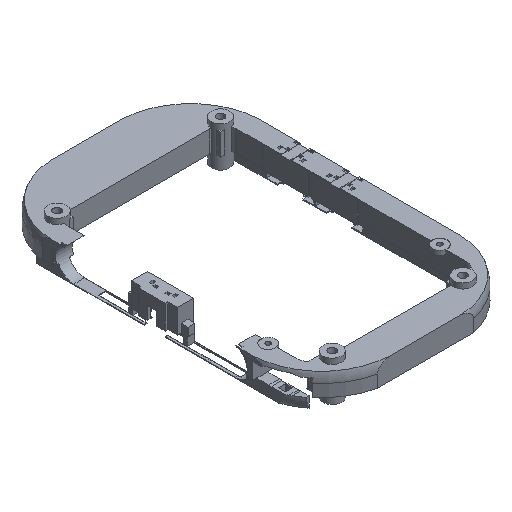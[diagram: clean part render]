
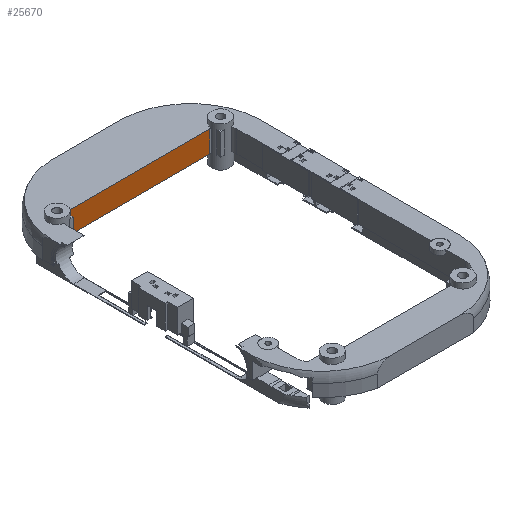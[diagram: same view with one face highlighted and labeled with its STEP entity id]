
A CAD part, isometric view. The second image highlights one B-rep face of the part: STEP entity #25670.
In plain terms, the highlighted planar face has unit normal (0, -1, 0).
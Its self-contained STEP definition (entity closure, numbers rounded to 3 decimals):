
#19020 = PLANE('',#19021);
#19021 = AXIS2_PLACEMENT_3D('',#19022,#19023,#19024);
#19022 = CARTESIAN_POINT('',(-38.2,-62.2,12.));
#19023 = DIRECTION('',(0.,0.,1.));
#19024 = DIRECTION('',(1.,0.,-0.));
#19078 = PLANE('',#19079);
#19079 = AXIS2_PLACEMENT_3D('',#19080,#19081,#19082);
#19080 = CARTESIAN_POINT('',(-38.2,-62.2,20.));
#19081 = DIRECTION('',(0.,0.,1.));
#19082 = DIRECTION('',(1.,0.,-0.));
#22992 = VERTEX_POINT('',#22993);
#22993 = CARTESIAN_POINT('',(-26.,43.,12.));
#23008 = CYLINDRICAL_SURFACE('',#23009,5.);
#23009 = AXIS2_PLACEMENT_3D('',#23010,#23011,#23012);
#23010 = CARTESIAN_POINT('',(-26.,38.,10.));
#23011 = DIRECTION('',(0.,0.,1.));
#23012 = DIRECTION('',(-1.,-0.,0.));
#23020 = EDGE_CURVE('',#23021,#22992,#23023,.T.);
#23021 = VERTEX_POINT('',#23022);
#23022 = CARTESIAN_POINT('',(26.,43.,12.));
#23023 = SURFACE_CURVE('',#23024,(#23028,#23035),.PCURVE_S1.);
#23024 = LINE('',#23025,#23026);
#23025 = CARTESIAN_POINT('',(-34.6,43.,12.));
#23026 = VECTOR('',#23027,1.);
#23027 = DIRECTION('',(-1.,0.,0.));
#23028 = PCURVE('',#19020,#23029);
#23029 = DEFINITIONAL_REPRESENTATION('',(#23030),#23034);
#23030 = LINE('',#23031,#23032);
#23031 = CARTESIAN_POINT('',(3.6,105.2));
#23032 = VECTOR('',#23033,1.);
#23033 = DIRECTION('',(-1.,0.));
#23034 = ( GEOMETRIC_REPRESENTATION_CONTEXT(2) 
PARAMETRIC_REPRESENTATION_CONTEXT() REPRESENTATION_CONTEXT('2D SPACE',''
  ) );
#23035 = PCURVE('',#23036,#23041);
#23036 = PLANE('',#23037);
#23037 = AXIS2_PLACEMENT_3D('',#23038,#23039,#23040);
#23038 = CARTESIAN_POINT('',(-31.,43.,10.));
#23039 = DIRECTION('',(0.,1.,0.));
#23040 = DIRECTION('',(0.,-0.,1.));
#23041 = DEFINITIONAL_REPRESENTATION('',(#23042),#23046);
#23042 = LINE('',#23043,#23044);
#23043 = CARTESIAN_POINT('',(2.,-3.6));
#23044 = VECTOR('',#23045,1.);
#23045 = DIRECTION('',(0.,-1.));
#23046 = ( GEOMETRIC_REPRESENTATION_CONTEXT(2) 
PARAMETRIC_REPRESENTATION_CONTEXT() REPRESENTATION_CONTEXT('2D SPACE',''
  ) );
#23065 = CYLINDRICAL_SURFACE('',#23066,5.);
#23066 = AXIS2_PLACEMENT_3D('',#23067,#23068,#23069);
#23067 = CARTESIAN_POINT('',(26.,38.,10.));
#23068 = DIRECTION('',(0.,0.,1.));
#23069 = DIRECTION('',(1.,0.,-0.));
#23934 = VERTEX_POINT('',#23935);
#23935 = CARTESIAN_POINT('',(-26.,43.,20.));
#23957 = EDGE_CURVE('',#23958,#23934,#23960,.T.);
#23958 = VERTEX_POINT('',#23959);
#23959 = CARTESIAN_POINT('',(26.,43.,20.));
#23960 = SURFACE_CURVE('',#23961,(#23965,#23972),.PCURVE_S1.);
#23961 = LINE('',#23962,#23963);
#23962 = CARTESIAN_POINT('',(-34.6,43.,20.));
#23963 = VECTOR('',#23964,1.);
#23964 = DIRECTION('',(-1.,0.,0.));
#23965 = PCURVE('',#19078,#23966);
#23966 = DEFINITIONAL_REPRESENTATION('',(#23967),#23971);
#23967 = LINE('',#23968,#23969);
#23968 = CARTESIAN_POINT('',(3.6,105.2));
#23969 = VECTOR('',#23970,1.);
#23970 = DIRECTION('',(-1.,0.));
#23971 = ( GEOMETRIC_REPRESENTATION_CONTEXT(2) 
PARAMETRIC_REPRESENTATION_CONTEXT() REPRESENTATION_CONTEXT('2D SPACE',''
  ) );
#23972 = PCURVE('',#23036,#23973);
#23973 = DEFINITIONAL_REPRESENTATION('',(#23974),#23978);
#23974 = LINE('',#23975,#23976);
#23975 = CARTESIAN_POINT('',(10.,-3.6));
#23976 = VECTOR('',#23977,1.);
#23977 = DIRECTION('',(0.,-1.));
#23978 = ( GEOMETRIC_REPRESENTATION_CONTEXT(2) 
PARAMETRIC_REPRESENTATION_CONTEXT() REPRESENTATION_CONTEXT('2D SPACE',''
  ) );
#25649 = EDGE_CURVE('',#23021,#23958,#25650,.T.);
#25650 = SURFACE_CURVE('',#25651,(#25655,#25662),.PCURVE_S1.);
#25651 = LINE('',#25652,#25653);
#25652 = CARTESIAN_POINT('',(26.,43.,10.));
#25653 = VECTOR('',#25654,1.);
#25654 = DIRECTION('',(0.,0.,1.));
#25655 = PCURVE('',#23065,#25656);
#25656 = DEFINITIONAL_REPRESENTATION('',(#25657),#25661);
#25657 = LINE('',#25658,#25659);
#25658 = CARTESIAN_POINT('',(1.571,0.));
#25659 = VECTOR('',#25660,1.);
#25660 = DIRECTION('',(0.,1.));
#25661 = ( GEOMETRIC_REPRESENTATION_CONTEXT(2) 
PARAMETRIC_REPRESENTATION_CONTEXT() REPRESENTATION_CONTEXT('2D SPACE',''
  ) );
#25662 = PCURVE('',#23036,#25663);
#25663 = DEFINITIONAL_REPRESENTATION('',(#25664),#25668);
#25664 = LINE('',#25665,#25666);
#25665 = CARTESIAN_POINT('',(0.,57.));
#25666 = VECTOR('',#25667,1.);
#25667 = DIRECTION('',(1.,0.));
#25668 = ( GEOMETRIC_REPRESENTATION_CONTEXT(2) 
PARAMETRIC_REPRESENTATION_CONTEXT() REPRESENTATION_CONTEXT('2D SPACE',''
  ) );
#25670 = ADVANCED_FACE('',(#25671),#23036,.F.);
#25671 = FACE_BOUND('',#25672,.F.);
#25672 = EDGE_LOOP('',(#25673,#25674,#25695,#25696));
#25673 = ORIENTED_EDGE('',*,*,#23020,.T.);
#25674 = ORIENTED_EDGE('',*,*,#25675,.T.);
#25675 = EDGE_CURVE('',#22992,#23934,#25676,.T.);
#25676 = SURFACE_CURVE('',#25677,(#25681,#25688),.PCURVE_S1.);
#25677 = LINE('',#25678,#25679);
#25678 = CARTESIAN_POINT('',(-26.,43.,10.));
#25679 = VECTOR('',#25680,1.);
#25680 = DIRECTION('',(0.,0.,1.));
#25681 = PCURVE('',#23036,#25682);
#25682 = DEFINITIONAL_REPRESENTATION('',(#25683),#25687);
#25683 = LINE('',#25684,#25685);
#25684 = CARTESIAN_POINT('',(0.,5.));
#25685 = VECTOR('',#25686,1.);
#25686 = DIRECTION('',(1.,0.));
#25687 = ( GEOMETRIC_REPRESENTATION_CONTEXT(2) 
PARAMETRIC_REPRESENTATION_CONTEXT() REPRESENTATION_CONTEXT('2D SPACE',''
  ) );
#25688 = PCURVE('',#23008,#25689);
#25689 = DEFINITIONAL_REPRESENTATION('',(#25690),#25694);
#25690 = LINE('',#25691,#25692);
#25691 = CARTESIAN_POINT('',(4.712,0.));
#25692 = VECTOR('',#25693,1.);
#25693 = DIRECTION('',(-0.,1.));
#25694 = ( GEOMETRIC_REPRESENTATION_CONTEXT(2) 
PARAMETRIC_REPRESENTATION_CONTEXT() REPRESENTATION_CONTEXT('2D SPACE',''
  ) );
#25695 = ORIENTED_EDGE('',*,*,#23957,.F.);
#25696 = ORIENTED_EDGE('',*,*,#25649,.F.);
